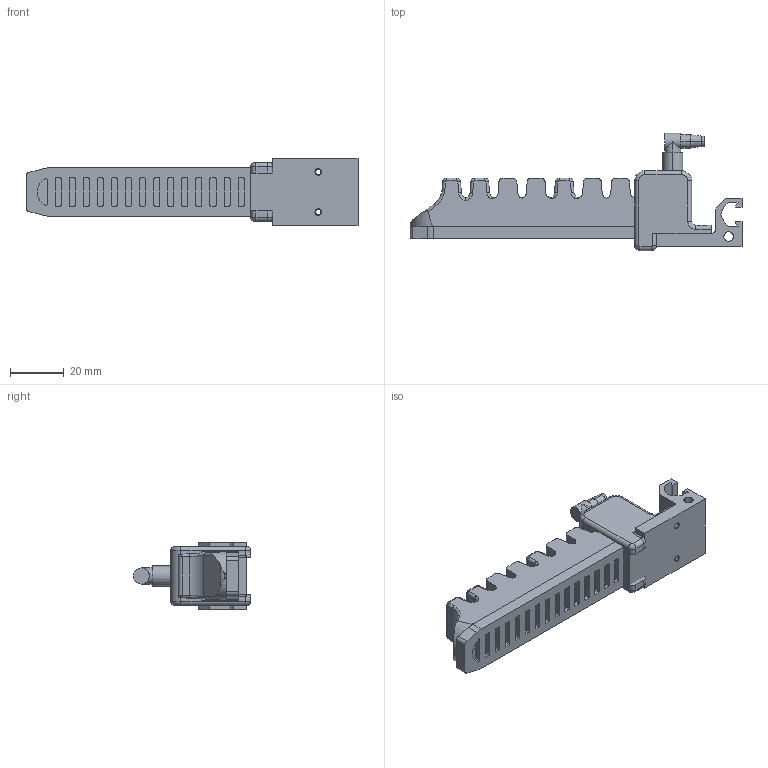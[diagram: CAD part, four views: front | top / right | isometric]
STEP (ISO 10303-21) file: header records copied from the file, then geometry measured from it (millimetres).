
FILE_DESCRIPTION (( 'STEP AP214' ), '1' );
FILE_NAME ('GFM-B8V5.STEP', '2019-12-04T03:54:34', ( '微软用户' ), ( '微软中国' ), 'SwSTEP 2.0', 'SolidWorks 2016', '' );
FILE_SCHEMA (( 'AUTOMOTIVE_DESIGN' ));
Length unit declared in the file: millimetre
Products named in the file (1): GFM-B8V5
Bounding box: 123.83 x 43.75 x 25 mm (x, y, z)
Volume: 43610.4 mm3; surface area: 19694.5 mm2
Topology: 4 solids, 4 shells, 396 faces, 1016 edges, 645 vertices
Faces by surface type: cylinder 181, plane 163, bspline 32, cone 14, torus 6
Entity records: 18154 total; most frequent: CARTESIAN_POINT 4335, ORIENTED_EDGE 2032, DIRECTION 1915, EDGE_CURVE 1016, AXIS2_PLACEMENT_3D 669, VERTEX_POINT 645, VECTOR 577, LINE 577
